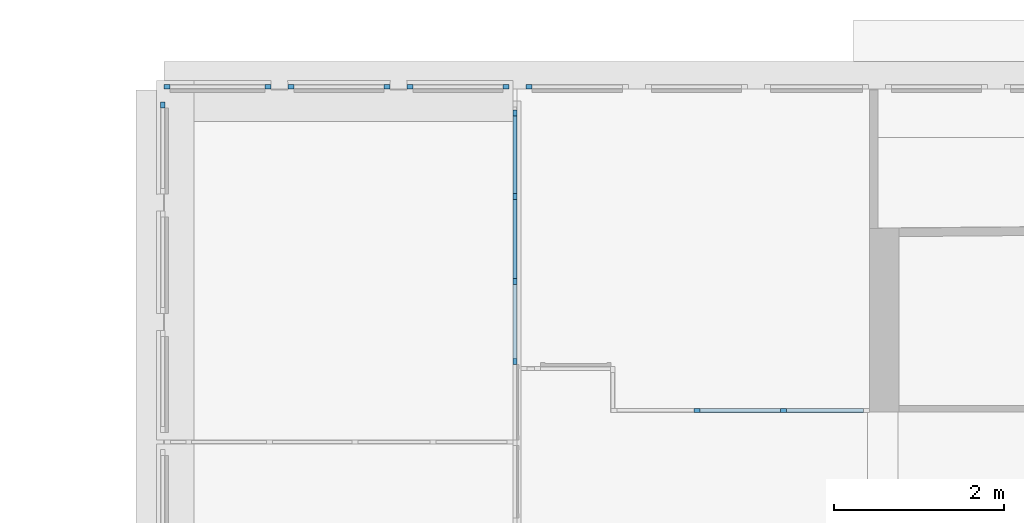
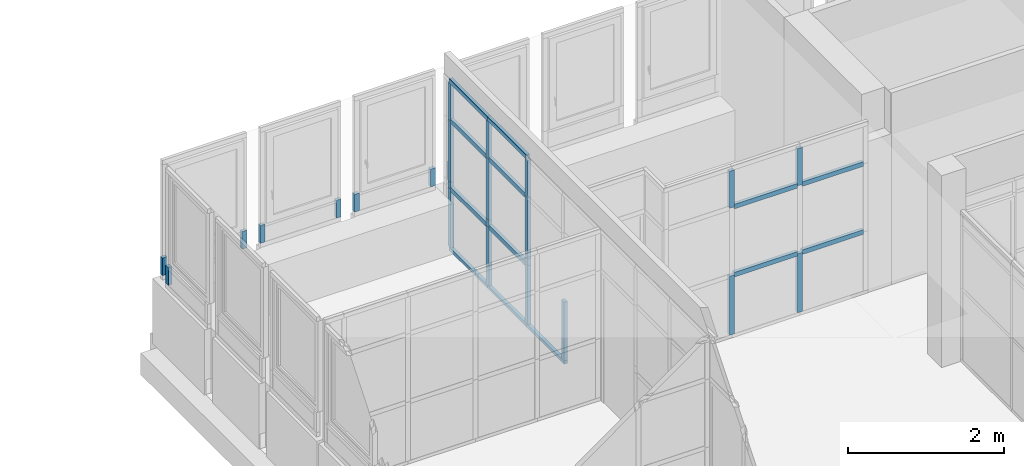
# One storey, part 22 of 97: 38 members, 7 elements without a shape of their own.
"""IFC4 building model written with IfcOpenShell, lengths in metres."""

from ifc_helpers import new_model, entity, si_unit, converted_unit, derived_unit, direction, frame, origin, place, context, subcontext, project, spatial, indexed_curve, outline, extrude, source, transform, mapped, material, type_object, type_shapes, element, aggregate, save


model = new_model("IFC4")

# Units and contexts
model_context = context("Model", 3, precision=1e-05, world=origin(), true_north=direction((6.12303176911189e-17, 1.0)))
body_context = subcontext(model_context, "Body", "Model", "MODEL_VIEW")
ifc_project = project(units=[si_unit("LENGTHUNIT", "METRE"), si_unit("AREAUNIT", "SQUARE_METRE"), si_unit("VOLUMEUNIT", "CUBIC_METRE"), converted_unit("PLANEANGLEUNIT", "DEGREE", entity("IfcRatioMeasure", 0.0174532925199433), si_unit("PLANEANGLEUNIT", "RADIAN"), dimensions=[0, 0, 0, 0, 0, 0, 0]), si_unit("MASSUNIT", "GRAM", prefix="KILO"), derived_unit("MASSDENSITYUNIT", [(si_unit("MASSUNIT", "GRAM", prefix="KILO"), 1), (si_unit("LENGTHUNIT", "METRE"), -3)]), derived_unit("MOMENTOFINERTIAUNIT", [(si_unit("LENGTHUNIT", "METRE"), 4)]), si_unit("TIMEUNIT", "SECOND"), si_unit("FREQUENCYUNIT", "HERTZ"), si_unit("THERMODYNAMICTEMPERATUREUNIT", "DEGREE_CELSIUS"), derived_unit("THERMALTRANSMITTANCEUNIT", [(si_unit("MASSUNIT", "GRAM", prefix="KILO"), 1), (si_unit("THERMODYNAMICTEMPERATUREUNIT", "KELVIN"), -1), (si_unit("TIMEUNIT", "SECOND"), -3)]), derived_unit("VOLUMETRICFLOWRATEUNIT", [(si_unit("LENGTHUNIT", "METRE"), 3), (si_unit("TIMEUNIT", "SECOND"), -1)]), si_unit("ELECTRICCURRENTUNIT", "AMPERE"), si_unit("ELECTRICVOLTAGEUNIT", "VOLT"), si_unit("POWERUNIT", "WATT"), si_unit("FORCEUNIT", "NEWTON", prefix="KILO"), si_unit("ILLUMINANCEUNIT", "LUX"), si_unit("LUMINOUSFLUXUNIT", "LUMEN"), si_unit("LUMINOUSINTENSITYUNIT", "CANDELA"), derived_unit("USERDEFINED", [(si_unit("MASSUNIT", "GRAM", prefix="KILO"), -1), (si_unit("LENGTHUNIT", "METRE"), -2), (si_unit("TIMEUNIT", "SECOND"), 3), (si_unit("LUMINOUSFLUXUNIT", "LUMEN"), 1)]), derived_unit("LINEARVELOCITYUNIT", [(si_unit("LENGTHUNIT", "METRE"), 1), (si_unit("TIMEUNIT", "SECOND"), -1)]), si_unit("PRESSUREUNIT", "PASCAL"), derived_unit("USERDEFINED", [(si_unit("LENGTHUNIT", "METRE"), -2), (si_unit("MASSUNIT", "GRAM", prefix="KILO"), 1), (si_unit("TIMEUNIT", "SECOND"), -2)]), derived_unit("LINEARFORCEUNIT", [(si_unit("MASSUNIT", "GRAM", prefix="KILO"), 1), (si_unit("LENGTHUNIT", "METRE"), 1), (si_unit("TIMEUNIT", "SECOND"), -2), (si_unit("LENGTHUNIT", "METRE"), -1)]), derived_unit("PLANARFORCEUNIT", [(si_unit("MASSUNIT", "GRAM", prefix="KILO"), 1), (si_unit("LENGTHUNIT", "METRE"), 1), (si_unit("TIMEUNIT", "SECOND"), -2), (si_unit("LENGTHUNIT", "METRE"), -2)])], contexts=[model_context])

# Site, building, storey
site_placement = place(None, origin())
site = spatial("IfcSite", under=ifc_project, at=site_placement, Name="Default", CompositionType="ELEMENT")
building_placement = place(site_placement, origin())
building = spatial("IfcBuilding", under=site, at=building_placement, Name="HOTEL CONSULAIRE BOULOGNE SUR MER", CompositionType="ELEMENT")
storey_placement = place(building_placement, frame((0.0, 0.0, 3.62152697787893)))
storey = spatial("IfcBuildingStorey", under=building, at=storey_placement, Name="Niveau 1", CompositionType="ELEMENT", Elevation=3.62152697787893)

# Curtain wall, member
curtain_wall_type = type_object("IfcCurtainWallType", Name="Mur-rideau:Simple panneau", PredefinedType="NOTDEFINED")
curtain_wall_1_placement = place(storey_placement, frame((0.0, 0.0, -3.62152697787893)))
curtain_wall_1 = element("IfcCurtainWall", 1, at=curtain_wall_1_placement, inside=storey, type_object=curtain_wall_type, Name="Mur-rideau:Simple panneau", ObjectType="Mur-rideau:Simple panneau", PredefinedType="NOTDEFINED")
ifc_material_1 = material(Name="PVC - Blanc", Category="Plastique")
member_type_1 = type_object("IfcMemberType", Name="Meneau rectangulaire:50 x 35", PredefinedType="MULLION", material=ifc_material_1)
shared_shape_1 = source(origin(), body_context, "Body", "SweptSolid", [
    extrude(outline(indexed_curve([(-0.025, -0.035), (0.025, -0.035), (0.025, 0.035), (-0.025, 0.035), (-0.025, -0.035)], self_intersect=False)), frame((-0.035, -0.025, -0.278), z_axis=(0.0, 0.0, 1.0), x_axis=(0.0, -1.0, 0.0)), (0.0, 0.0, 1.0), 0.278),
])
type_shapes(member_type_1, [shared_shape_1])
member_1_placement = place(storey_placement, frame((-13.7870998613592, -10.2303241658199, 0.861612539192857), z_axis=(0.0, 0.0, -1.0), x_axis=(0.0, 1.0, 0.0)))
member_1 = element("IfcMember", 2, at=member_1_placement, type_object=member_type_1, material=ifc_material_1, Name="Meneau rectangulaire:50 x 35", ObjectType="Meneau rectangulaire:50 x 35", PredefinedType="MULLION", context=body_context, shape_type="MappedRepresentation", body=[
    mapped(shared_shape_1, transform((0.0, 0.0, 0.0), scale=1.0)),
])
aggregate(curtain_wall_1, [member_1])

curtain_wall_2_placement = place(storey_placement, frame((0.0, 0.0, -3.62152697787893)))
curtain_wall_2 = element("IfcCurtainWall", 3, at=curtain_wall_2_placement, inside=storey, type_object=curtain_wall_type, Name="Mur-rideau:Simple panneau", ObjectType="Mur-rideau:Simple panneau", PredefinedType="NOTDEFINED")
member_2_placement = place(storey_placement, frame((-12.5414199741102, -10.0746323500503, 0.861612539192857), z_axis=(0.0, 0.0, -1.0), x_axis=(1.0, 0.0, 0.0)))
member_2 = element("IfcMember", 4, at=member_2_placement, type_object=member_type_1, material=ifc_material_1, Name="Meneau rectangulaire:50 x 35", ObjectType="Meneau rectangulaire:50 x 35", PredefinedType="MULLION", context=body_context, shape_type="MappedRepresentation", body=[
    mapped(shared_shape_1, transform((0.0, 0.0, 0.0), scale=1.0)),
])

curtain_wall_3_placement = place(storey_placement, frame((0.0, 0.0, -3.62152697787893)))
curtain_wall_3 = element("IfcCurtainWall", 5, at=curtain_wall_3_placement, inside=storey, type_object=curtain_wall_type, Name="Mur-rideau:Simple panneau", ObjectType="Mur-rideau:Simple panneau", PredefinedType="NOTDEFINED")
member_3_placement = place(storey_placement, frame((-11.1414199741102, -10.0746323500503, 0.861612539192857), z_axis=(0.0, 0.0, -1.0), x_axis=(1.0, 0.0, 0.0)))
member_3 = element("IfcMember", 6, at=member_3_placement, type_object=member_type_1, material=ifc_material_1, Name="Meneau rectangulaire:50 x 35", ObjectType="Meneau rectangulaire:50 x 35", PredefinedType="MULLION", context=body_context, shape_type="MappedRepresentation", body=[
    mapped(shared_shape_1, transform((0.0, 0.0, 0.0), scale=1.0)),
])

curtain_wall_4_placement = place(storey_placement, frame((0.0, 0.0, -3.62152697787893)))
curtain_wall_4 = element("IfcCurtainWall", 7, at=curtain_wall_4_placement, inside=storey, type_object=curtain_wall_type, Name="Mur-rideau:Simple panneau", ObjectType="Mur-rideau:Simple panneau", PredefinedType="NOTDEFINED")
member_4_placement = place(storey_placement, frame((-9.74141997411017, -10.0746323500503, 0.861612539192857), z_axis=(0.0, 0.0, -1.0), x_axis=(1.0, 0.0, 0.0)))
member_4 = element("IfcMember", 8, at=member_4_placement, type_object=member_type_1, material=ifc_material_1, Name="Meneau rectangulaire:50 x 35", ObjectType="Meneau rectangulaire:50 x 35", PredefinedType="MULLION", context=body_context, shape_type="MappedRepresentation", body=[
    mapped(shared_shape_1, transform((0.0, 0.0, 0.0), scale=1.0)),
])

# Member
member_type_2 = type_object("IfcMemberType", Name="Meneau rectangulaire:50 x 35", PredefinedType="MULLION", material=ifc_material_1)
shared_shape_2 = source(origin(), body_context, "Body", "SweptSolid", [
    extrude(outline(indexed_curve([(-0.025, -0.035), (0.025, -0.035), (0.025, 0.035), (-0.025, 0.035), (-0.025, -0.035)], self_intersect=False)), frame((-0.035, -0.025, -0.278), z_axis=(0.0, 0.0, 1.0), x_axis=(0.0, -1.0, 0.0)), (0.0, 0.0, 1.0), 0.278),
])
type_shapes(member_type_2, [shared_shape_2])
member_5_placement = place(storey_placement, frame((-13.7939806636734, -10.0746323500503, 1.13961253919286), z_axis=(0.0, 0.0, 1.0), x_axis=(-1.0, 0.0, 0.0)))
member_5 = element("IfcMember", 9, at=member_5_placement, type_object=member_type_2, material=ifc_material_1, Name="Meneau rectangulaire:50 x 35", ObjectType="Meneau rectangulaire:50 x 35", PredefinedType="MULLION", context=body_context, shape_type="MappedRepresentation", body=[
    mapped(shared_shape_2, transform((0.0, 0.0, 0.0), scale=1.0)),
])

aggregate(curtain_wall_2, [member_2, member_5])

member_6_placement = place(storey_placement, frame((-12.3414199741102, -10.0746323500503, 1.13961253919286), z_axis=(0.0, 0.0, 1.0), x_axis=(-1.0, 0.0, 0.0)))
member_6 = element("IfcMember", 10, at=member_6_placement, type_object=member_type_2, material=ifc_material_1, Name="Meneau rectangulaire:50 x 35", ObjectType="Meneau rectangulaire:50 x 35", PredefinedType="MULLION", context=body_context, shape_type="MappedRepresentation", body=[
    mapped(shared_shape_2, transform((0.0, 0.0, 0.0), scale=1.0)),
])

aggregate(curtain_wall_3, [member_3, member_6])

member_7_placement = place(storey_placement, frame((-10.9414199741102, -10.0746323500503, 1.13961253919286), z_axis=(0.0, 0.0, 1.0), x_axis=(-1.0, 0.0, 0.0)))
member_7 = element("IfcMember", 11, at=member_7_placement, type_object=member_type_2, material=ifc_material_1, Name="Meneau rectangulaire:50 x 35", ObjectType="Meneau rectangulaire:50 x 35", PredefinedType="MULLION", context=body_context, shape_type="MappedRepresentation", body=[
    mapped(shared_shape_2, transform((0.0, 0.0, 0.0), scale=1.0)),
])

aggregate(curtain_wall_4, [member_4, member_7])

# Curtain wall, member
curtain_wall_5_placement = place(storey_placement, frame((0.0, 0.0, -3.62152697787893)))
curtain_wall_5 = element("IfcCurtainWall", 12, at=curtain_wall_5_placement, inside=storey, type_object=curtain_wall_type, Name="Mur-rideau:Simple panneau", ObjectType="Mur-rideau:Simple panneau", PredefinedType="NOTDEFINED")
member_8_placement = place(storey_placement, frame((-9.54141997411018, -10.0746323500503, 1.13961253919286), z_axis=(0.0, 0.0, 1.0), x_axis=(-1.0, 0.0, 0.0)))
member_8 = element("IfcMember", 13, at=member_8_placement, type_object=member_type_2, material=ifc_material_1, Name="Meneau rectangulaire:50 x 35", ObjectType="Meneau rectangulaire:50 x 35", PredefinedType="MULLION", context=body_context, shape_type="MappedRepresentation", body=[
    mapped(shared_shape_2, transform((0.0, 0.0, 0.0), scale=1.0)),
])
aggregate(curtain_wall_5, [member_8])

# Curtain wall, members
curtain_wall_6_placement = place(storey_placement, frame((0.0, 0.0, -3.62152697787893)))
curtain_wall_6 = element("IfcCurtainWall", 14, at=curtain_wall_6_placement, inside=storey, type_object=curtain_wall_type, Name="Mur-rideau:Simple panneau", ObjectType="Mur-rideau:Simple panneau", PredefinedType="NOTDEFINED")
ifc_material_2 = material(Name="PVC, souple", Category="Plastique")
member_type_3 = type_object("IfcMemberType", Name="Meneau rectangulaire:50 x 35 pvc gris", PredefinedType="MULLION", material=ifc_material_2)
shared_shape_3 = source(origin(), body_context, "Body", "SweptSolid", [
    extrude(outline(indexed_curve([(-0.025, -0.035), (0.025, -0.035), (0.025, 0.035), (-0.025, 0.035), (-0.025, -0.035)], self_intersect=False)), frame((0.0, -0.025, -0.581), z_axis=(0.0, 0.0, 1.0), x_axis=(0.0, -1.0, 0.0)), (0.0, 0.0, 1.0), 0.581),
])
type_shapes(member_type_3, [shared_shape_3])
member_9_placement = place(storey_placement, frame((-9.64962464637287, -10.3576323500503, 2.04596046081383), z_axis=(0.0, 0.0, -1.0), x_axis=(0.0, 1.0, 0.0)))
member_9 = element("IfcMember", 15, at=member_9_placement, type_object=member_type_3, material=ifc_material_2, Name="Meneau rectangulaire:50 x 35 pvc gris", ObjectType="Meneau rectangulaire:50 x 35 pvc gris", PredefinedType="MULLION", context=body_context, shape_type="MappedRepresentation", body=[
    mapped(shared_shape_3, transform((0.0, 0.0, 0.0), scale=1.0)),
])
member_10_placement = place(storey_placement, frame((-9.64962464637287, -11.3403241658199, 2.04596046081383), z_axis=(0.0, 0.0, -1.0), x_axis=(0.0, 1.0, 0.0)))
member_10 = element("IfcMember", 16, at=member_10_placement, type_object=member_type_3, material=ifc_material_2, Name="Meneau rectangulaire:50 x 35 pvc gris", ObjectType="Meneau rectangulaire:50 x 35 pvc gris", PredefinedType="MULLION", context=body_context, shape_type="MappedRepresentation", body=[
    mapped(shared_shape_3, transform((0.0, 0.0, 0.0), scale=1.0)),
])
member_11_placement = place(storey_placement, frame((-9.64962464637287, -12.3366144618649, 2.04596046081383), z_axis=(0.0, 0.0, -1.0), x_axis=(0.0, 1.0, 0.0)))
member_11 = element("IfcMember", 17, at=member_11_placement, type_object=member_type_3, material=ifc_material_2, Name="Meneau rectangulaire:50 x 35 pvc gris", ObjectType="Meneau rectangulaire:50 x 35 pvc gris", PredefinedType="MULLION", context=body_context, shape_type="MappedRepresentation", body=[
    mapped(shared_shape_3, transform((0.0, 0.0, 0.0), scale=1.0)),
])

curtain_wall_7_placement = place(storey_placement, frame((0.0, 0.0, -3.62152697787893)))
curtain_wall_7 = element("IfcCurtainWall", 18, at=curtain_wall_7_placement, inside=storey, type_object=curtain_wall_type, Name="Mur-rideau:Simple panneau", ObjectType="Mur-rideau:Simple panneau", PredefinedType="NOTDEFINED")
member_12_placement = place(storey_placement, frame((-6.52117125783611, -13.8259141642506, 2.04596046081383), z_axis=(0.0, 0.0, -1.0), x_axis=(-1.0, 0.0, 0.0)))
member_12 = element("IfcMember", 19, at=member_12_placement, type_object=member_type_3, material=ifc_material_2, Name="Meneau rectangulaire:50 x 35 pvc gris", ObjectType="Meneau rectangulaire:50 x 35 pvc gris", PredefinedType="MULLION", context=body_context, shape_type="MappedRepresentation", body=[
    mapped(shared_shape_3, transform((0.0, 0.0, 0.0), scale=1.0)),
])
member_13_placement = place(storey_placement, frame((-7.53256933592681, -13.8259141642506, 2.04596046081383), z_axis=(0.0, 0.0, -1.0), x_axis=(-1.0, 0.0, 0.0)))
member_13 = element("IfcMember", 20, at=member_13_placement, type_object=member_type_3, material=ifc_material_2, Name="Meneau rectangulaire:50 x 35 pvc gris", ObjectType="Meneau rectangulaire:50 x 35 pvc gris", PredefinedType="MULLION", context=body_context, shape_type="MappedRepresentation", body=[
    mapped(shared_shape_3, transform((0.0, 0.0, 0.0), scale=1.0)),
])

# Member
member_type_4 = type_object("IfcMemberType", Name="Meneau rectangulaire:50 x 35 pvc gris", PredefinedType="MULLION", material=ifc_material_2)
shared_shape_4 = source(origin(), body_context, "Body", "SweptSolid", [
    extrude(outline(indexed_curve([(-0.025, -0.035), (0.025, -0.035), (0.025, 0.035), (-0.025, 0.035), (-0.025, -0.035)], self_intersect=False)), frame((0.0, -0.025, -0.926960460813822), z_axis=(0.0, 0.0, 1.0), x_axis=(0.0, -1.0, 0.0)), (0.0, 0.0, 1.0), 0.926960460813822),
])
type_shapes(member_type_4, [shared_shape_4])
member_14_placement = place(storey_placement, frame((-9.64962464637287, -10.3576323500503, 0.050000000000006), z_axis=(0.0, 0.0, -1.0), x_axis=(0.0, 1.0, 0.0)))
member_14 = element("IfcMember", 21, at=member_14_placement, type_object=member_type_4, material=ifc_material_2, Name="Meneau rectangulaire:50 x 35 pvc gris", ObjectType="Meneau rectangulaire:50 x 35 pvc gris", PredefinedType="MULLION", context=body_context, shape_type="MappedRepresentation", body=[
    mapped(shared_shape_4, transform((0.0, 0.0, 0.0), scale=1.0)),
])

member_15_placement = place(storey_placement, frame((-9.64962464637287, -11.3403241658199, 0.050000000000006), z_axis=(0.0, 0.0, -1.0), x_axis=(0.0, 1.0, 0.0)))
member_15 = element("IfcMember", 22, at=member_15_placement, type_object=member_type_4, material=ifc_material_2, Name="Meneau rectangulaire:50 x 35 pvc gris", ObjectType="Meneau rectangulaire:50 x 35 pvc gris", PredefinedType="MULLION", context=body_context, shape_type="MappedRepresentation", body=[
    mapped(shared_shape_4, transform((0.0, 0.0, 0.0), scale=1.0)),
])

member_16_placement = place(storey_placement, frame((-9.64962464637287, -12.3366144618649, 0.050000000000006), z_axis=(0.0, 0.0, -1.0), x_axis=(0.0, 1.0, 0.0)))
member_16 = element("IfcMember", 23, at=member_16_placement, type_object=member_type_4, material=ifc_material_2, Name="Meneau rectangulaire:50 x 35 pvc gris", ObjectType="Meneau rectangulaire:50 x 35 pvc gris", PredefinedType="MULLION", context=body_context, shape_type="MappedRepresentation", body=[
    mapped(shared_shape_4, transform((0.0, 0.0, 0.0), scale=1.0)),
])

member_17_placement = place(storey_placement, frame((-9.64962464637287, -13.2772596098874, 0.050000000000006), z_axis=(0.0, 0.0, -1.0), x_axis=(0.0, 1.0, 0.0)))
member_17 = element("IfcMember", 24, at=member_17_placement, type_object=member_type_4, material=ifc_material_2, Name="Meneau rectangulaire:50 x 35 pvc gris", ObjectType="Meneau rectangulaire:50 x 35 pvc gris", PredefinedType="MULLION", context=body_context, shape_type="MappedRepresentation", body=[
    mapped(shared_shape_4, transform((0.0, 0.0, 0.0), scale=1.0)),
])

member_18_placement = place(storey_placement, frame((-6.52117125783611, -13.8259141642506, 0.050000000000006), z_axis=(0.0, 0.0, -1.0), x_axis=(-1.0, 0.0, 0.0)))
member_18 = element("IfcMember", 25, at=member_18_placement, type_object=member_type_4, material=ifc_material_2, Name="Meneau rectangulaire:50 x 35 pvc gris", ObjectType="Meneau rectangulaire:50 x 35 pvc gris", PredefinedType="MULLION", context=body_context, shape_type="MappedRepresentation", body=[
    mapped(shared_shape_4, transform((0.0, 0.0, 0.0), scale=1.0)),
])

member_19_placement = place(storey_placement, frame((-7.53256933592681, -13.8259141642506, 0.050000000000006), z_axis=(0.0, 0.0, -1.0), x_axis=(-1.0, 0.0, 0.0)))
member_19 = element("IfcMember", 26, at=member_19_placement, type_object=member_type_4, material=ifc_material_2, Name="Meneau rectangulaire:50 x 35 pvc gris", ObjectType="Meneau rectangulaire:50 x 35 pvc gris", PredefinedType="MULLION", context=body_context, shape_type="MappedRepresentation", body=[
    mapped(shared_shape_4, transform((0.0, 0.0, 0.0), scale=1.0)),
])

member_type_5 = type_object("IfcMemberType", Name="Meneau rectangulaire:50 x 35 pvc gris", PredefinedType="MULLION", material=ifc_material_2)
shared_shape_5 = source(origin(), body_context, "Body", "SweptSolid", [
    extrude(outline(indexed_curve([(-0.025, -0.035), (0.025, -0.035), (0.025, 0.035), (-0.025, 0.035), (-0.025, -0.035)], self_intersect=False)), frame((0.0, -0.025, -0.912691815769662), z_axis=(0.0, 0.0, 1.0), x_axis=(0.0, -1.0, 0.0)), (0.0, 0.0, 1.0), 0.912691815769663),
])
type_shapes(member_type_5, [shared_shape_5])
member_20_placement = place(storey_placement, frame((-9.64962464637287, -10.3926323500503, 0.976960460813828), z_axis=(0.0, 1.0, 0.0), x_axis=(0.0, 0.0, 1.0)))
member_20 = element("IfcMember", 27, at=member_20_placement, type_object=member_type_5, material=ifc_material_2, Name="Meneau rectangulaire:50 x 35 pvc gris", ObjectType="Meneau rectangulaire:50 x 35 pvc gris", PredefinedType="MULLION", context=body_context, shape_type="MappedRepresentation", body=[
    mapped(shared_shape_5, transform((0.0, 0.0, 0.0), scale=1.0)),
])

member_21_placement = place(storey_placement, frame((-9.64962464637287, -10.3926323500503, 2.04596046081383), z_axis=(0.0, 1.0, 0.0), x_axis=(0.0, 0.0, 1.0)))
member_21 = element("IfcMember", 28, at=member_21_placement, type_object=member_type_5, material=ifc_material_2, Name="Meneau rectangulaire:50 x 35 pvc gris", ObjectType="Meneau rectangulaire:50 x 35 pvc gris", PredefinedType="MULLION", context=body_context, shape_type="MappedRepresentation", body=[
    mapped(shared_shape_5, transform((0.0, 0.0, 0.0), scale=1.0)),
])

member_type_6 = type_object("IfcMemberType", Name="Meneau rectangulaire:50 x 35 pvc gris", PredefinedType="MULLION", material=ifc_material_2)
shared_shape_6 = source(origin(), body_context, "Body", "SweptSolid", [
    extrude(outline(indexed_curve([(-0.025, -0.035), (0.025, -0.035), (0.025, 0.035), (-0.025, 0.035), (-0.025, -0.035)], self_intersect=False)), frame((0.0, -0.025, -0.926290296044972), z_axis=(0.0, 0.0, 1.0), x_axis=(0.0, -1.0, 0.0)), (0.0, 0.0, 1.0), 0.926290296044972),
])
type_shapes(member_type_6, [shared_shape_6])
member_22_placement = place(storey_placement, frame((-9.64962464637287, -11.3753241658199, 0.976960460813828), z_axis=(0.0, 1.0, 0.0), x_axis=(0.0, 0.0, 1.0)))
member_22 = element("IfcMember", 29, at=member_22_placement, type_object=member_type_6, material=ifc_material_2, Name="Meneau rectangulaire:50 x 35 pvc gris", ObjectType="Meneau rectangulaire:50 x 35 pvc gris", PredefinedType="MULLION", context=body_context, shape_type="MappedRepresentation", body=[
    mapped(shared_shape_6, transform((0.0, 0.0, 0.0), scale=1.0)),
])

member_23_placement = place(storey_placement, frame((-9.64962464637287, -11.3753241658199, 2.04596046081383), z_axis=(0.0, 1.0, 0.0), x_axis=(0.0, 0.0, 1.0)))
member_23 = element("IfcMember", 30, at=member_23_placement, type_object=member_type_6, material=ifc_material_2, Name="Meneau rectangulaire:50 x 35 pvc gris", ObjectType="Meneau rectangulaire:50 x 35 pvc gris", PredefinedType="MULLION", context=body_context, shape_type="MappedRepresentation", body=[
    mapped(shared_shape_6, transform((0.0, 0.0, 0.0), scale=1.0)),
])

member_type_7 = type_object("IfcMemberType", Name="Meneau rectangulaire:50 x 35 pvc gris", PredefinedType="MULLION", material=ifc_material_2)
shared_shape_7 = source(origin(), body_context, "Body", "SweptSolid", [
    extrude(outline(indexed_curve([(-0.025, -0.035), (0.025, -0.035), (0.025, 0.035), (-0.025, 0.035), (-0.025, -0.035)], self_intersect=False)), frame((0.0, -0.025, -0.105), z_axis=(0.0, 0.0, 1.0), x_axis=(0.0, -1.0, 0.0)), (0.0, 0.0, 1.0), 0.105),
])
type_shapes(member_type_7, [shared_shape_7])
member_24_placement = place(storey_placement, frame((-9.64962464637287, -10.3576323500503, 0.976960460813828), z_axis=(0.0, 0.0, -1.0), x_axis=(0.0, 1.0, 0.0)))
member_24 = element("IfcMember", 31, at=member_24_placement, type_object=member_type_7, material=ifc_material_2, Name="Meneau rectangulaire:50 x 35 pvc gris", ObjectType="Meneau rectangulaire:50 x 35 pvc gris", PredefinedType="MULLION", context=body_context, shape_type="MappedRepresentation", body=[
    mapped(shared_shape_7, transform((0.0, 0.0, 0.0), scale=1.0)),
])

member_25_placement = place(storey_placement, frame((-9.64962464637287, -11.3403241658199, 0.976960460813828), z_axis=(0.0, 0.0, -1.0), x_axis=(0.0, 1.0, 0.0)))
member_25 = element("IfcMember", 32, at=member_25_placement, type_object=member_type_7, material=ifc_material_2, Name="Meneau rectangulaire:50 x 35 pvc gris", ObjectType="Meneau rectangulaire:50 x 35 pvc gris", PredefinedType="MULLION", context=body_context, shape_type="MappedRepresentation", body=[
    mapped(shared_shape_7, transform((0.0, 0.0, 0.0), scale=1.0)),
])

member_26_placement = place(storey_placement, frame((-9.64962464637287, -12.3366144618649, 0.976960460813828), z_axis=(0.0, 0.0, -1.0), x_axis=(0.0, 1.0, 0.0)))
member_26 = element("IfcMember", 33, at=member_26_placement, type_object=member_type_7, material=ifc_material_2, Name="Meneau rectangulaire:50 x 35 pvc gris", ObjectType="Meneau rectangulaire:50 x 35 pvc gris", PredefinedType="MULLION", context=body_context, shape_type="MappedRepresentation", body=[
    mapped(shared_shape_7, transform((0.0, 0.0, 0.0), scale=1.0)),
])

member_type_8 = type_object("IfcMemberType", Name="Meneau rectangulaire:50 x 35 pvc gris", PredefinedType="MULLION", material=ifc_material_2)
shared_shape_8 = source(origin(), body_context, "Body", "SweptSolid", [
    extrude(outline(indexed_curve([(-0.025, -0.035), (0.025, -0.035), (0.025, 0.035), (-0.025, 0.035), (-0.025, -0.035)], self_intersect=False)), frame((0.0, -0.025, -0.964), z_axis=(0.0, 0.0, 1.0), x_axis=(0.0, -1.0, 0.0)), (0.0, 0.0, 1.0), 0.964),
])
type_shapes(member_type_8, [shared_shape_8])
member_27_placement = place(storey_placement, frame((-9.64962464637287, -10.3576323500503, 1.08196046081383), z_axis=(0.0, 0.0, -1.0), x_axis=(0.0, 1.0, 0.0)))
member_27 = element("IfcMember", 34, at=member_27_placement, type_object=member_type_8, material=ifc_material_2, Name="Meneau rectangulaire:50 x 35 pvc gris", ObjectType="Meneau rectangulaire:50 x 35 pvc gris", PredefinedType="MULLION", context=body_context, shape_type="MappedRepresentation", body=[
    mapped(shared_shape_8, transform((0.0, 0.0, 0.0), scale=1.0)),
])

member_28_placement = place(storey_placement, frame((-9.64962464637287, -11.3403241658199, 1.08196046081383), z_axis=(0.0, 0.0, -1.0), x_axis=(0.0, 1.0, 0.0)))
member_28 = element("IfcMember", 35, at=member_28_placement, type_object=member_type_8, material=ifc_material_2, Name="Meneau rectangulaire:50 x 35 pvc gris", ObjectType="Meneau rectangulaire:50 x 35 pvc gris", PredefinedType="MULLION", context=body_context, shape_type="MappedRepresentation", body=[
    mapped(shared_shape_8, transform((0.0, 0.0, 0.0), scale=1.0)),
])

member_29_placement = place(storey_placement, frame((-9.64962464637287, -12.3366144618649, 1.08196046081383), z_axis=(0.0, 0.0, -1.0), x_axis=(0.0, 1.0, 0.0)))
member_29 = element("IfcMember", 36, at=member_29_placement, type_object=member_type_8, material=ifc_material_2, Name="Meneau rectangulaire:50 x 35 pvc gris", ObjectType="Meneau rectangulaire:50 x 35 pvc gris", PredefinedType="MULLION", context=body_context, shape_type="MappedRepresentation", body=[
    mapped(shared_shape_8, transform((0.0, 0.0, 0.0), scale=1.0)),
])

member_type_9 = type_object("IfcMemberType", Name="Meneau rectangulaire:50 x 35 pvc gris", PredefinedType="MULLION", material=ifc_material_2)
shared_shape_9 = source(origin(), body_context, "Body", "SweptSolid", [
    extrude(outline(indexed_curve([(-0.025, -0.035), (0.025, -0.035), (0.025, 0.035), (-0.025, 0.035), (-0.025, -0.035)], self_intersect=False)), frame((-0.035, -0.025, -0.98269181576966), z_axis=(0.0, 0.0, 1.0), x_axis=(0.0, -1.0, 0.0)), (0.0, 0.0, 1.0), 0.98269181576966),
])
type_shapes(member_type_9, [shared_shape_9])
member_30_placement = place(storey_placement, frame((-9.64962464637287, -10.3576323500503, 2.69696046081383), z_axis=(0.0, 1.0, 0.0), x_axis=(0.0, 0.0, 1.0)))
member_30 = element("IfcMember", 37, at=member_30_placement, type_object=member_type_9, material=ifc_material_2, Name="Meneau rectangulaire:50 x 35 pvc gris", ObjectType="Meneau rectangulaire:50 x 35 pvc gris", PredefinedType="MULLION", context=body_context, shape_type="MappedRepresentation", body=[
    mapped(shared_shape_9, transform((0.0, 0.0, 0.0), scale=1.0)),
])

member_type_10 = type_object("IfcMemberType", Name="Meneau rectangulaire:50 x 35 pvc gris", PredefinedType="MULLION", material=ifc_material_2)
shared_shape_10 = source(origin(), body_context, "Body", "SweptSolid", [
    extrude(outline(indexed_curve([(-0.025, -0.035), (0.025, -0.035), (0.025, 0.035), (-0.025, 0.035), (-0.025, -0.035)], self_intersect=False)), frame((-0.035, -0.025, -0.996290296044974), z_axis=(0.0, 0.0, 1.0), x_axis=(0.0, -1.0, 0.0)), (0.0, 0.0, 1.0), 0.996290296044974),
])
type_shapes(member_type_10, [shared_shape_10])
member_31_placement = place(storey_placement, frame((-9.64962464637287, -11.3403241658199, 2.69696046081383), z_axis=(0.0, 1.0, 0.0), x_axis=(0.0, 0.0, 1.0)))
member_31 = element("IfcMember", 38, at=member_31_placement, type_object=member_type_10, material=ifc_material_2, Name="Meneau rectangulaire:50 x 35 pvc gris", ObjectType="Meneau rectangulaire:50 x 35 pvc gris", PredefinedType="MULLION", context=body_context, shape_type="MappedRepresentation", body=[
    mapped(shared_shape_10, transform((0.0, 0.0, 0.0), scale=1.0)),
])

member_type_11 = type_object("IfcMemberType", Name="Meneau rectangulaire:50 x 25mm pvc gris", PredefinedType="MULLION", material=ifc_material_2)
shared_shape_11 = source(origin(), body_context, "Body", "SweptSolid", [
    extrude(outline(indexed_curve([(-0.025, -0.025), (0.025, -0.025), (0.025, 0.025), (-0.025, 0.025), (-0.025, -0.025)], self_intersect=False)), frame((-0.025, -0.025, -0.975645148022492), z_axis=(0.0, 0.0, 1.0), x_axis=(0.0, -1.0, 0.0)), (0.0, 0.0, 1.0), 0.975645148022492),
])
type_shapes(member_type_11, [shared_shape_11])
member_32_placement = place(storey_placement, frame((-9.64962464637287, -13.3122596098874, 0.0), z_axis=(0.0, -1.0, 0.0), x_axis=(0.0, 0.0, -1.0)))
member_32 = element("IfcMember", 39, at=member_32_placement, type_object=member_type_11, material=ifc_material_2, Name="Meneau rectangulaire:50 x 25mm pvc gris", ObjectType="Meneau rectangulaire:50 x 25mm pvc gris", PredefinedType="MULLION", context=body_context, shape_type="MappedRepresentation", body=[
    mapped(shared_shape_11, transform((0.0, 0.0, 0.0), scale=1.0)),
])

member_type_12 = type_object("IfcMemberType", Name="Meneau rectangulaire:50 x 25mm pvc gris", PredefinedType="MULLION", material=ifc_material_2)
shared_shape_12 = source(origin(), body_context, "Body", "SweptSolid", [
    extrude(outline(indexed_curve([(-0.025, -0.025), (0.025, -0.025), (0.025, 0.025), (-0.025, 0.025), (-0.025, -0.025)], self_intersect=False)), frame((-0.025, -0.025, -0.996290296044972), z_axis=(0.0, 0.0, 1.0), x_axis=(0.0, -1.0, 0.0)), (0.0, 0.0, 1.0), 0.996290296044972),
])
type_shapes(member_type_12, [shared_shape_12])
member_33_placement = place(storey_placement, frame((-9.64962464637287, -12.3366144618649, 0.0), z_axis=(0.0, -1.0, 0.0), x_axis=(0.0, 0.0, -1.0)))
member_33 = element("IfcMember", 40, at=member_33_placement, type_object=member_type_12, material=ifc_material_2, Name="Meneau rectangulaire:50 x 25mm pvc gris", ObjectType="Meneau rectangulaire:50 x 25mm pvc gris", PredefinedType="MULLION", context=body_context, shape_type="MappedRepresentation", body=[
    mapped(shared_shape_12, transform((0.0, 0.0, 0.0), scale=1.0)),
])

member_type_13 = type_object("IfcMemberType", Name="Meneau rectangulaire:50 x 25mm pvc gris", PredefinedType="MULLION", material=ifc_material_2)
shared_shape_13 = source(origin(), body_context, "Body", "SweptSolid", [
    extrude(outline(indexed_curve([(-0.025, -0.025), (0.025, -0.025), (0.025, 0.025), (-0.025, 0.025), (-0.025, -0.025)], self_intersect=False)), frame((-0.025, -0.025, -0.982691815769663), z_axis=(0.0, 0.0, 1.0), x_axis=(0.0, -1.0, 0.0)), (0.0, 0.0, 1.0), 0.982691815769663),
])
type_shapes(member_type_13, [shared_shape_13])
member_34_placement = place(storey_placement, frame((-9.64962464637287, -11.3403241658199, 0.0), z_axis=(0.0, -1.0, 0.0), x_axis=(0.0, 0.0, -1.0)))
member_34 = element("IfcMember", 41, at=member_34_placement, type_object=member_type_13, material=ifc_material_2, Name="Meneau rectangulaire:50 x 25mm pvc gris", ObjectType="Meneau rectangulaire:50 x 25mm pvc gris", PredefinedType="MULLION", context=body_context, shape_type="MappedRepresentation", body=[
    mapped(shared_shape_13, transform((0.0, 0.0, 0.0), scale=1.0)),
])

aggregate(curtain_wall_6, [member_20, member_22, member_21, member_23, member_24, member_27, member_9, member_14, member_25, member_28, member_10, member_15, member_26, member_29, member_11, member_16, member_30, member_31, member_17, member_32, member_33, member_34])

member_type_14 = type_object("IfcMemberType", Name="Meneau rectangulaire:50 x 35 pvc gris", PredefinedType="MULLION", material=ifc_material_2)
shared_shape_14 = source(origin(), body_context, "Body", "SweptSolid", [
    extrude(outline(indexed_curve([(-0.025, -0.035), (0.025, -0.035), (0.025, 0.035), (-0.025, 0.035), (-0.025, -0.035)], self_intersect=False)), frame((0.0, -0.025, -0.906398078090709), z_axis=(0.0, 0.0, 1.0), x_axis=(0.0, -1.0, 0.0)), (0.0, 0.0, 1.0), 0.906398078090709),
])
type_shapes(member_type_14, [shared_shape_14])
member_35_placement = place(storey_placement, frame((-6.48617125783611, -13.8259141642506, 2.04596046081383), z_axis=(-1.0, 0.0, 0.0), x_axis=(0.0, 0.0, 1.0)))
member_35 = element("IfcMember", 42, at=member_35_placement, type_object=member_type_14, material=ifc_material_2, Name="Meneau rectangulaire:50 x 35 pvc gris", ObjectType="Meneau rectangulaire:50 x 35 pvc gris", PredefinedType="MULLION", context=body_context, shape_type="MappedRepresentation", body=[
    mapped(shared_shape_14, transform((0.0, 0.0, 0.0), scale=1.0)),
])

member_36_placement = place(storey_placement, frame((-6.48617125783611, -13.8259141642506, 0.977000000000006), z_axis=(-1.0, 0.0, 0.0), x_axis=(0.0, 0.0, 1.0)))
member_36 = element("IfcMember", 43, at=member_36_placement, type_object=member_type_14, material=ifc_material_2, Name="Meneau rectangulaire:50 x 35 pvc gris", ObjectType="Meneau rectangulaire:50 x 35 pvc gris", PredefinedType="MULLION", context=body_context, shape_type="MappedRepresentation", body=[
    mapped(shared_shape_14, transform((0.0, 0.0, 0.0), scale=1.0)),
])

member_type_15 = type_object("IfcMemberType", Name="Meneau rectangulaire:50 x 35 pvc gris", PredefinedType="MULLION", material=ifc_material_2)
shared_shape_15 = source(origin(), body_context, "Body", "SweptSolid", [
    extrude(outline(indexed_curve([(-0.025, -0.035), (0.025, -0.035), (0.025, 0.035), (-0.025, 0.035), (-0.025, -0.035)], self_intersect=False)), frame((0.0, -0.025, -0.941398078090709), z_axis=(0.0, 0.0, 1.0), x_axis=(0.0, -1.0, 0.0)), (0.0, 0.0, 1.0), 0.941398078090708),
])
type_shapes(member_type_15, [shared_shape_15])
member_37_placement = place(storey_placement, frame((-7.49756933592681, -13.8259141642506, 2.04596046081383), z_axis=(-1.0, 0.0, 0.0), x_axis=(0.0, 0.0, 1.0)))
member_37 = element("IfcMember", 44, at=member_37_placement, type_object=member_type_15, material=ifc_material_2, Name="Meneau rectangulaire:50 x 35 pvc gris", ObjectType="Meneau rectangulaire:50 x 35 pvc gris", PredefinedType="MULLION", context=body_context, shape_type="MappedRepresentation", body=[
    mapped(shared_shape_15, transform((0.0, 0.0, 0.0), scale=1.0)),
])

member_38_placement = place(storey_placement, frame((-7.49756933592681, -13.8259141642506, 0.977000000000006), z_axis=(-1.0, 0.0, 0.0), x_axis=(0.0, 0.0, 1.0)))
member_38 = element("IfcMember", 45, at=member_38_placement, type_object=member_type_15, material=ifc_material_2, Name="Meneau rectangulaire:50 x 35 pvc gris", ObjectType="Meneau rectangulaire:50 x 35 pvc gris", PredefinedType="MULLION", context=body_context, shape_type="MappedRepresentation", body=[
    mapped(shared_shape_15, transform((0.0, 0.0, 0.0), scale=1.0)),
])

aggregate(curtain_wall_7, [member_37, member_35, member_38, member_36, member_12, member_18, member_13, member_19])

save(model, "model.ifc")
